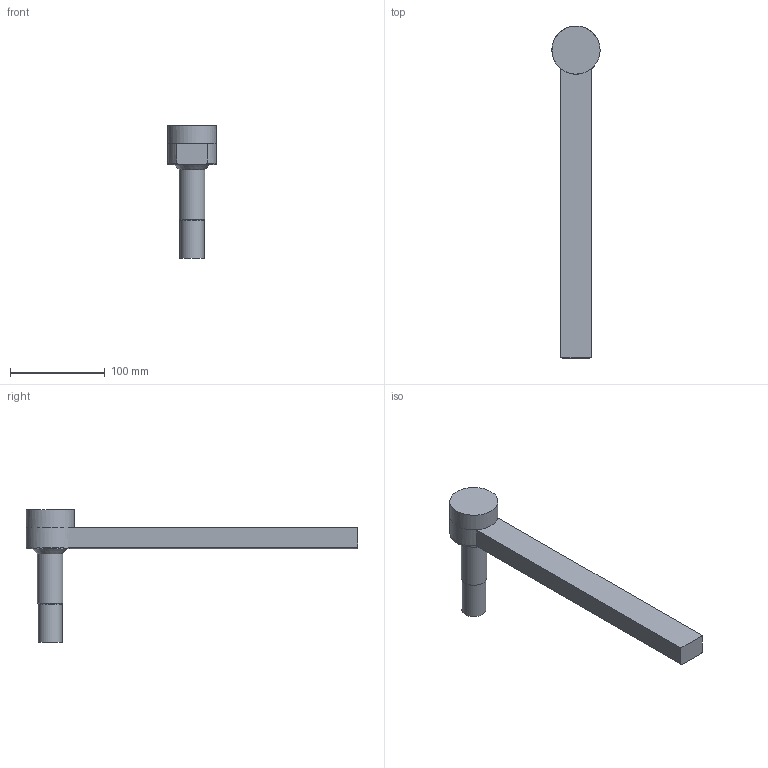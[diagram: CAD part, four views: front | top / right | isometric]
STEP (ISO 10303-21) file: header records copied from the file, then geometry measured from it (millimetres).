
FILE_DESCRIPTION(/* description */ (''),/* implementation_level */ '2;1');
FILE_NAME(/* name */ 'B06111TRUPas.stp',/* time_stamp */ '2019-10-03T08:31:19-04:00',/* author */ (''),/* organization */ (''),/* preprocessor_version */ 'ST-DEVELOPER v16',/* originating_system */ 'SIEMENS PLM Software NX 11.0',/* authorisation */ '');
FILE_SCHEMA (('AUTOMOTIVE_DESIGN { 1 0 10303 214 3 1 1 1 }'));
Length unit declared in the file: inch
Products named in the file (3): B06XX_SubSolid; B06111TRUPd; B06111TRUPas
Assembly tree (2 placements, depth 2):
  B06111TRUPas
    B06111TRUPd
    B06XX_SubSolid
Bounding box: 50.91 x 350.87 x 140.49 mm (x, y, z)
Volume: 431604.5 mm3; surface area: 70782.5 mm2
Topology: 2 solids, 3 shells, 35 faces, 74 edges, 46 vertices
Faces by surface type: plane 13, cylinder 10, cone 6, torus 4, sphere 1, revolution 1
Full cylindrical faces by diameter (mm): 8.731 x2, 25.4 x2, 26.987 x1, 50.927 x1
Entity records: 894 total; most frequent: CARTESIAN_POINT 170, DIRECTION 146, ORIENTED_EDGE 98, AXIS2_PLACEMENT_3D 64, EDGE_LOOP 56, EDGE_CURVE 49, FACE_BOUND 47, VERTEX_POINT 41
